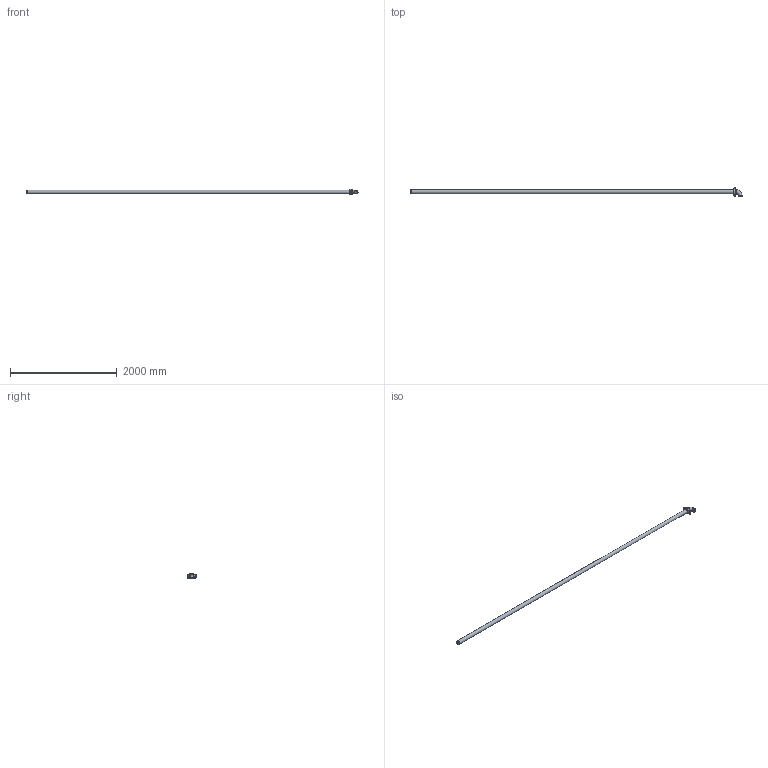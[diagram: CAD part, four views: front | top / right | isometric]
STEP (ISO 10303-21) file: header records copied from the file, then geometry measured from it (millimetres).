
FILE_DESCRIPTION(/* description */ ('VIC LONG RUN FITTING No R20 (OGS)','CAx-IF Rec.Pracs.---Representation and Presentation of Product Manufacturing Information (PMI)---4.0---2014-10-13'),/* implementation_level */ '2;1');
FILE_NAME(/* name */ 'C:\Users\Vjadhav\AppData\Roaming\Autodesk\ApplicationPlugins\Back Up\Victaulic_IPS_Long Run Fittings_No R20 (OGS)\Victaulic_IPS_Long Run Fittings_No R20 (OGS)_2.5 (65).stp',/* time_stamp */ '2020-10-06T19:45:42+05:00',/* author */ ('Vjadhav'),/* organization */ ('Victaulic'),/* preprocessor_version */ 'ST-DEVELOPER v17.2',/* originating_system */ 'Autodesk Inventor 2019',/* authorisation */ '');
FILE_SCHEMA (('AP242_MANAGED_MODEL_BASED_3D_ENGINEERING_MIM_LF { 1 0 10303 442 1 1 4 }'));
Length unit declared in the file: inch
Products named in the file (4): R20-02.5; 010-02.5; 177N-02.5; Pipe_R10-02.5
Assembly tree (3 placements, depth 2):
  R20-02.5
    010-02.5
    177N-02.5
    Pipe_R10-02.5
Bounding box: 6234.11 x 179.72 x 111.25 mm (x, y, z)
Volume: 7232364.2 mm3; surface area: 2735038 mm2
Topology: 3 solids, 3 shells, 117 faces, 305 edges, 206 vertices
Faces by surface type: plane 68, cylinder 37, torus 6, cone 4, sphere 2
Full cylindrical faces by diameter (mm): 12.7 x2, 19.05 x2, 60.325 x1, 62.713 x3, 69.088 x4, 73.025 x7
Entity records: 4140 total; most frequent: CARTESIAN_POINT 843, DIRECTION 661, ORIENTED_EDGE 618, EDGE_CURVE 309, AXIS2_PLACEMENT_3D 248, VERTEX_POINT 206, LINE 165, VECTOR 165
